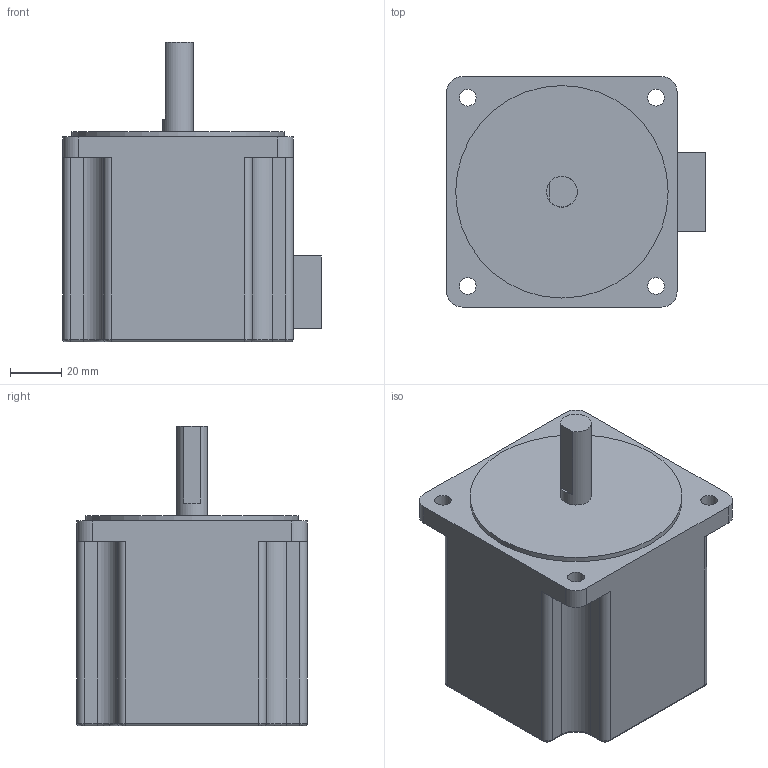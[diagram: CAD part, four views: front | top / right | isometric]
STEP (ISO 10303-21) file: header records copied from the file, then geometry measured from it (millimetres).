
FILE_DESCRIPTION((''),'2;1');
FILE_NAME('D:\HH共用件\馬達_減速機\M200H(L)35C.stp','2017-01-18T09:24:33',('Administrator'),(''),'Autodesk Inventor 10','Autodesk Inventor 10','');
FILE_SCHEMA(('AUTOMOTIVE_DESIGN { 1 0 10303 214 1 1 1 1 }'));
Length unit declared in the file: millimetre
Products named in the file (1): M200H(L)35C
Bounding box: 101 x 90 x 117 mm (x, y, z)
Volume: 600040.6 mm3; surface area: 46525.4 mm2
Topology: 1 solids, 1 shells, 75 faces, 187 edges, 118 vertices
Faces by surface type: cylinder 31, plane 28, torus 12, bspline 4
Full cylindrical faces by diameter (mm): 12 x2, 83 x1
Entity records: 2255 total; most frequent: CARTESIAN_POINT 432, DIRECTION 402, ORIENTED_EDGE 350, EDGE_CURVE 175, AXIS2_PLACEMENT_3D 155, VERTEX_POINT 113, EDGE_LOOP 94, VECTOR 92
